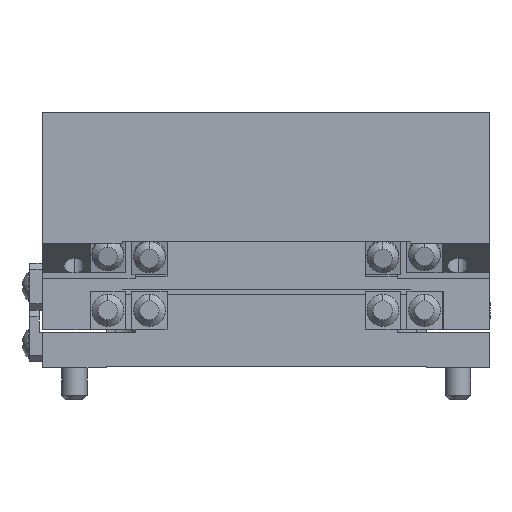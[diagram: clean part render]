
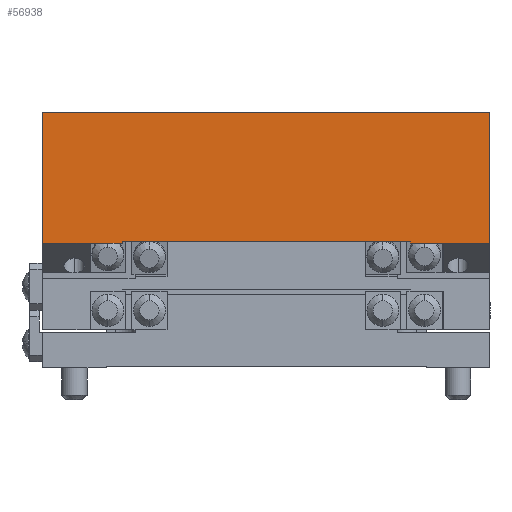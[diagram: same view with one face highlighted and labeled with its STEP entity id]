
A CAD part, left-side view. The second image highlights one B-rep face of the part: STEP entity #56938.
In plain terms, the highlighted planar face has unit normal (-1, 0, 0).
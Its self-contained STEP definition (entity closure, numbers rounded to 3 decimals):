
#3789 = CARTESIAN_POINT ( 'NONE',  ( -35., 35., 0. ) ) ;
#3795 = CARTESIAN_POINT ( 'NONE',  ( -35., -35., -20.515 ) ) ;
#3800 = CARTESIAN_POINT ( 'NONE',  ( -35., -35., 0. ) ) ;
#3802 = CARTESIAN_POINT ( 'NONE',  ( -35., 22.5, -20.515 ) ) ;
#3803 = CARTESIAN_POINT ( 'NONE',  ( -35., 27.5, -20.515 ) ) ;
#3805 = CARTESIAN_POINT ( 'NONE',  ( -35., -27.8, -20.515 ) ) ;
#3808 = CARTESIAN_POINT ( 'NONE',  ( -35., -22.5, -20.515 ) ) ;
#3821 = CARTESIAN_POINT ( 'NONE',  ( -35., 35., -20.515 ) ) ;
#3822 = CARTESIAN_POINT ( 'NONE',  ( -35., -22.5, -20.206 ) ) ;
#3823 = CARTESIAN_POINT ( 'NONE',  ( -35., 22.5, -20.206 ) ) ;
#11944 = CARTESIAN_POINT ( 'NONE',  ( -35., 0., -26. ) ) ;
#11955 = FACE_OUTER_BOUND ( 'NONE', #32422, .T. ) ;
#11956 = PLANE ( 'NONE',  #55212 ) ;
#11958 = DIRECTION ( 'NONE',  ( -1., 0., 0. ) ) ;
#11959 = DIRECTION ( 'NONE',  ( 0., 0., 1. ) ) ;
#15549 = VERTEX_POINT ( 'NONE', #3789 ) ;
#15555 = VERTEX_POINT ( 'NONE', #3795 ) ;
#15560 = VERTEX_POINT ( 'NONE', #3800 ) ;
#15562 = VERTEX_POINT ( 'NONE', #3802 ) ;
#15563 = VERTEX_POINT ( 'NONE', #3803 ) ;
#15565 = VERTEX_POINT ( 'NONE', #3805 ) ;
#15568 = VERTEX_POINT ( 'NONE', #3808 ) ;
#15581 = VERTEX_POINT ( 'NONE', #3821 ) ;
#15582 = VERTEX_POINT ( 'NONE', #3822 ) ;
#15583 = VERTEX_POINT ( 'NONE', #3823 ) ;
#20696 = ORIENTED_EDGE ( 'NONE', *, *, #46849, .F. ) ;
#20701 = ORIENTED_EDGE ( 'NONE', *, *, #46851, .T. ) ;
#20706 = ORIENTED_EDGE ( 'NONE', *, *, #46802, .F. ) ;
#20712 = ORIENTED_EDGE ( 'NONE', *, *, #46727, .T. ) ;
#20716 = ORIENTED_EDGE ( 'NONE', *, *, #46776, .T. ) ;
#20722 = ORIENTED_EDGE ( 'NONE', *, *, #46847, .F. ) ;
#20727 = ORIENTED_EDGE ( 'NONE', *, *, #46853, .F. ) ;
#20733 = ORIENTED_EDGE ( 'NONE', *, *, #46791, .T. ) ;
#20737 = ORIENTED_EDGE ( 'NONE', *, *, #46855, .T. ) ;
#20743 = ORIENTED_EDGE ( 'NONE', *, *, #46857, .T. ) ;
#23028 = LINE ( 'NONE', #23031, #45093 ) ;
#23031 = CARTESIAN_POINT ( 'NONE',  ( -35., -35., -26. ) ) ;
#23033 = DIRECTION ( 'NONE',  ( 0., 0., 1. ) ) ;
#23187 = LINE ( 'NONE', #23204, #45120 ) ;
#23204 = CARTESIAN_POINT ( 'NONE',  ( -35., 0., 0. ) ) ;
#23207 = DIRECTION ( 'NONE',  ( 0., 1., 0. ) ) ;
#23232 = LINE ( 'NONE', #23240, #45121 ) ;
#23240 = CARTESIAN_POINT ( 'NONE',  ( -35., 27.5, -20.515 ) ) ;
#23242 = DIRECTION ( 'NONE',  ( 0., -1., 0. ) ) ;
#23260 = LINE ( 'NONE', #23261, #45137 ) ;
#23261 = CARTESIAN_POINT ( 'NONE',  ( -35., -35., -20.515 ) ) ;
#23262 = DIRECTION ( 'NONE',  ( 0., 1., 0. ) ) ;
#23304 = LINE ( 'NONE', #23338, #45154 ) ;
#23326 = LINE ( 'NONE', #23327, #45156 ) ;
#23327 = CARTESIAN_POINT ( 'NONE',  ( -35., 35., -26. ) ) ;
#23328 = DIRECTION ( 'NONE',  ( 0., 0., 1. ) ) ;
#23329 = LINE ( 'NONE', #23330, #45157 ) ;
#23330 = CARTESIAN_POINT ( 'NONE',  ( -35., -22.5, -26. ) ) ;
#23331 = DIRECTION ( 'NONE',  ( 0., 0., 1. ) ) ;
#23332 = LINE ( 'NONE', #23333, #45158 ) ;
#23333 = CARTESIAN_POINT ( 'NONE',  ( -35., 27.5, -20.515 ) ) ;
#23334 = DIRECTION ( 'NONE',  ( 0., -1., 0. ) ) ;
#23335 = LINE ( 'NONE', #23336, #45159 ) ;
#23336 = CARTESIAN_POINT ( 'NONE',  ( -35., -35., -20.515 ) ) ;
#23337 = DIRECTION ( 'NONE',  ( 0., 1., 0. ) ) ;
#23338 = CARTESIAN_POINT ( 'NONE',  ( -35., 22.5, -26. ) ) ;
#23339 = DIRECTION ( 'NONE',  ( 0., 0., 1. ) ) ;
#23340 = LINE ( 'NONE', #23341, #45161 ) ;
#23341 = CARTESIAN_POINT ( 'NONE',  ( -35., 0., -20.206 ) ) ;
#23342 = DIRECTION ( 'NONE',  ( 0., -1., 0. ) ) ;
#32422 = EDGE_LOOP ( 'NONE', ( #20696, #20701, #20706, #20712, #20716, #20722, #20727, #20733, #20737, #20743 ) ) ;
#45093 = VECTOR ( 'NONE', #23033, 1000. ) ;
#45120 = VECTOR ( 'NONE', #23207, 1000. ) ;
#45121 = VECTOR ( 'NONE', #23242, 1000. ) ;
#45137 = VECTOR ( 'NONE', #23262, 1000. ) ;
#45154 = VECTOR ( 'NONE', #23339, 1000. ) ;
#45156 = VECTOR ( 'NONE', #23328, 1000. ) ;
#45157 = VECTOR ( 'NONE', #23331, 1000. ) ;
#45158 = VECTOR ( 'NONE', #23334, 1000. ) ;
#45159 = VECTOR ( 'NONE', #23337, 1000. ) ;
#45161 = VECTOR ( 'NONE', #23342, 1000. ) ;
#46727 = EDGE_CURVE ( 'NONE', #15555, #15560, #23028, .T. ) ;
#46776 = EDGE_CURVE ( 'NONE', #15560, #15549, #23187, .T. ) ;
#46791 = EDGE_CURVE ( 'NONE', #15563, #15562, #23232, .T. ) ;
#46802 = EDGE_CURVE ( 'NONE', #15555, #15565, #23260, .T. ) ;
#46847 = EDGE_CURVE ( 'NONE', #15581, #15549, #23326, .T. ) ;
#46849 = EDGE_CURVE ( 'NONE', #15568, #15582, #23329, .T. ) ;
#46851 = EDGE_CURVE ( 'NONE', #15568, #15565, #23332, .T. ) ;
#46853 = EDGE_CURVE ( 'NONE', #15563, #15581, #23335, .T. ) ;
#46855 = EDGE_CURVE ( 'NONE', #15562, #15583, #23304, .T. ) ;
#46857 = EDGE_CURVE ( 'NONE', #15583, #15582, #23340, .T. ) ;
#55212 = AXIS2_PLACEMENT_3D ( 'NONE', #11944, #11958, #11959 ) ;
#56938 = ADVANCED_FACE ( 'NONE', ( #11955 ), #11956, .T. ) ;
